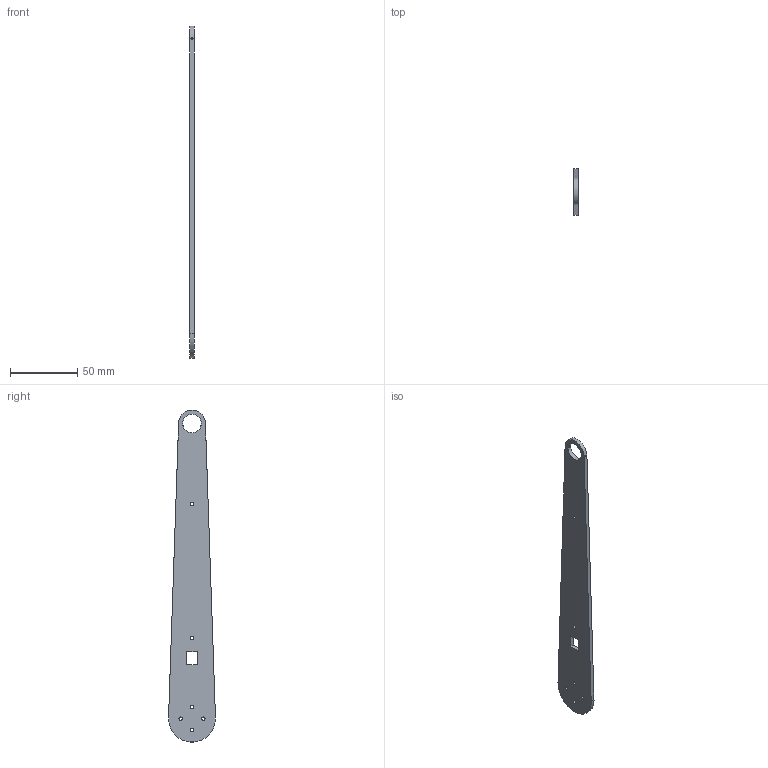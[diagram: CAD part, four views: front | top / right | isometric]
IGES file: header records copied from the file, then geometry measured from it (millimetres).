
Start section: START RECORD GO HERE.
Global section: file name: 4.igs; native system: DASSAULT SYSTEMES CATIA V5 R21 - www.3ds.com; preprocessor: 27HCATIA Version 5 Release 21; author: E___; organization: MSI; date: 20160804.200121; units: millimetre
Bounding box: 3 x 34.98 x 247.44 mm (x, y, z)
Surface area: 14846.9 mm2 (no closed solid volume)
Topology: 0 solids, 0 shells, 28 faces, 172 edges, 172 vertices
Faces by surface type: revolution 20, plane 8
